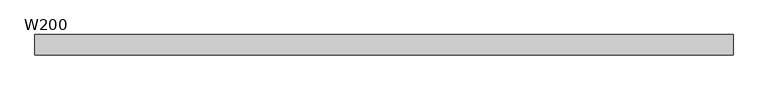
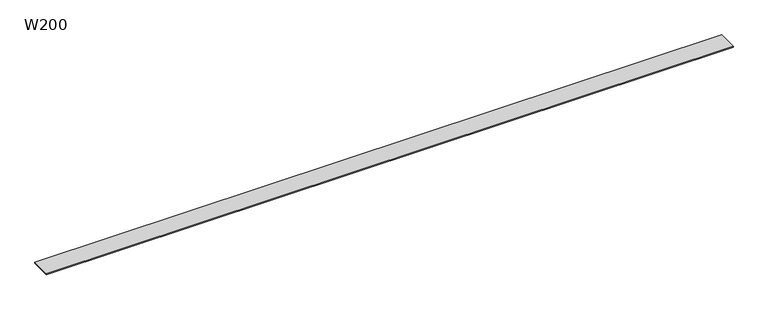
"""IFC4 building model written with IfcOpenShell, lengths in millimetres: geographic element geometry, 営_(外構)グレーチング : W200."""

from ifc_helpers import new_model, si_unit, origin, origin_with_axes, place, context, project, spatial, polyline, outline, extrude, source, transform, mapped, element, save


def w200_b9cd528b(model_context):
    return source(origin(), model_context, "Body", "SweptSolid", [
        extrude(outline(polyline([(7200.0, 105.0), (7200.0, -105.0), (0.0, -105.0), (0.0, 105.0), (7200.0, 105.0)])), origin_with_axes(), (0.0, 0.0, 1.0), 10.0),
    ])


if __name__ == "__main__":
    model = new_model("IFC4")
    model_context = context("Model", 3, world=origin())
    ifc_project = project(units=[si_unit("LENGTHUNIT", "METRE", prefix="MILLI")], contexts=[model_context])
    site = spatial("IfcSite", under=ifc_project)
    building = spatial("IfcBuilding", under=site)
    placement = place(None, origin())
    w200_shape = w200_b9cd528b(model_context)
    element("IfcGeographicElement", 1, ObjectType="営_(外構)グレーチング : W200", at=placement, inside=building, context=model_context, shape_type="MappedRepresentation", body=[
        mapped(w200_shape, transform((0.0, 0.0, 0.0), x_axis=(1.0, 0.0, 0.0), y_axis=(0.0, 1.0, 0.0), z_axis=(0.0, 0.0, 1.0))),
    ])
    save(model, "model.ifc")
